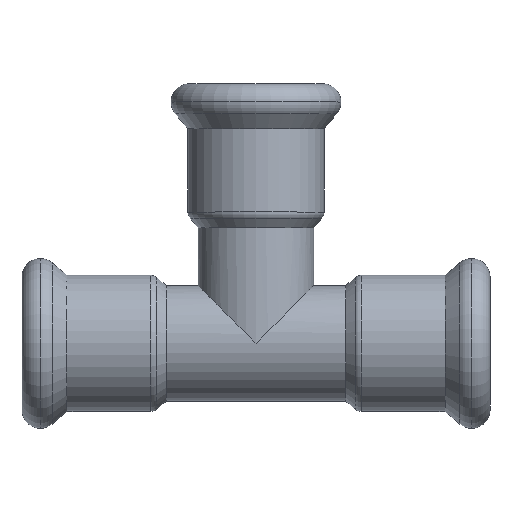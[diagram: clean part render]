
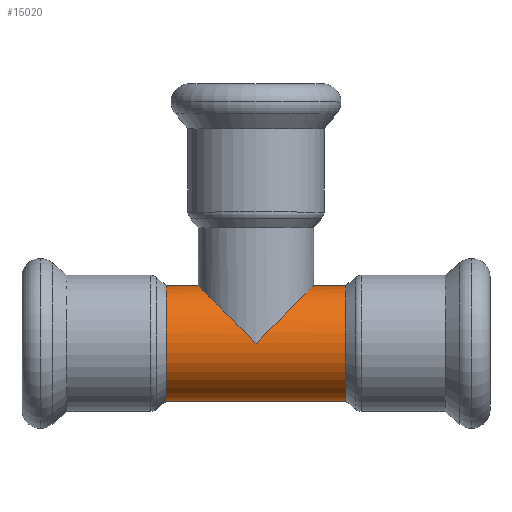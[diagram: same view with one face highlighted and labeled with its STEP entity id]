
A CAD part, top view. The second image highlights one B-rep face of the part: STEP entity #15020.
In plain terms, the highlighted cylindrical face has radius 9 mm (diameter 18 mm), a partial arc.
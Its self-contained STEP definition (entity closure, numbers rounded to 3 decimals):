
#14210=CARTESIAN_POINT('',(-193.976,33.621,
0.));
#14220=VERTEX_POINT('',#14210);
#14300=CARTESIAN_POINT('',(-211.976,33.621,0.));
#14310=VERTEX_POINT('',#14300);
#14340=CARTESIAN_POINT('',(-202.976,24.621,0.));
#14350=DIRECTION('',(0.707,0.707,0.));
#14360=DIRECTION('',(-0.707,0.707,0.));
#14370=AXIS2_PLACEMENT_3D('',#14340,#14350,#14360);
#14380=ELLIPSE('',#14370,12.728,9.);
#14430=CARTESIAN_POINT('',(-202.976,24.621,0.));
#14440=DIRECTION('',(-0.707,0.707,0.));
#14450=DIRECTION('',(0.707,0.707,0.));
#14460=AXIS2_PLACEMENT_3D('',#14430,#14440,#14450);
#14470=ELLIPSE('',#14460,12.728,9.);
#14530=CARTESIAN_POINT('',(-216.976,24.621,0.));
#14540=DIRECTION('',(-1.,0.,0.));
#14550=DIRECTION('',(0.,1.,0.));
#14560=AXIS2_PLACEMENT_3D('',#14530,#14540,#14550);
#14570=CYLINDRICAL_SURFACE('',#14560,9.);
#14580=CARTESIAN_POINT('',(-216.976,15.621,
0.));
#14590=DIRECTION('',(-1.,0.,0.));
#14600=VECTOR('',#14590,1.);
#14610=LINE('',#14580,#14600);
#14620=CARTESIAN_POINT('',(-188.976,15.621,
0.));
#14630=VERTEX_POINT('',#14620);
#14640=CARTESIAN_POINT('',(-216.976,15.621,
0.));
#14650=VERTEX_POINT('',#14640);
#14660=EDGE_CURVE('',#14630,#14650,#14610,.T.);
#14670=ORIENTED_EDGE('',*,*,#14660,.F.);
#14680=CARTESIAN_POINT('',(-216.976,24.621,0.));
#14690=DIRECTION('',(-1.,0.,0.));
#14700=DIRECTION('',(0.,-1.,0.));
#14710=AXIS2_PLACEMENT_3D('',#14680,#14690,#14700);
#14720=CIRCLE('',#14710,9.);
#14730=CARTESIAN_POINT('',(-216.976,33.621,0.));
#14740=VERTEX_POINT('',#14730);
#14750=EDGE_CURVE('',#14650,#14740,#14720,.T.);
#14760=ORIENTED_EDGE('',*,*,#14750,.F.);
#14770=CARTESIAN_POINT('',(-216.976,33.621,0.));
#14780=DIRECTION('',(-1.,0.,0.));
#14790=VECTOR('',#14780,1.);
#14800=LINE('',#14770,#14790);
#14810=EDGE_CURVE('',#14310,#14740,#14800,.T.);
#14820=ORIENTED_EDGE('',*,*,#14810,.T.);
#14830=CARTESIAN_POINT('',(-202.976,24.621,9.));
#14840=VERTEX_POINT('',#14830);
#14850=EDGE_CURVE('',#14310,#14840,#14380,.T.);
#14860=ORIENTED_EDGE('',*,*,#14850,.F.);
#14870=EDGE_CURVE('',#14840,#14220,#14470,.T.);
#14880=ORIENTED_EDGE('',*,*,#14870,.F.);
#14890=CARTESIAN_POINT('',(-188.976,33.621,0.));
#14900=VERTEX_POINT('',#14890);
#14910=EDGE_CURVE('',#14900,#14220,#14800,.T.);
#14920=ORIENTED_EDGE('',*,*,#14910,.T.);
#14930=CARTESIAN_POINT('',(-188.976,24.621,0.));
#14940=DIRECTION('',(-1.,0.,0.));
#14950=DIRECTION('',(0.,1.,0.));
#14960=AXIS2_PLACEMENT_3D('',#14930,#14940,#14950);
#14970=CIRCLE('',#14960,9.);
#14980=EDGE_CURVE('',#14630,#14900,#14970,.T.);
#14990=ORIENTED_EDGE('',*,*,#14980,.T.);
#15000=EDGE_LOOP('',(#14990,#14920,#14880,#14860,#14820,#14760,#14670));
#15010=FACE_OUTER_BOUND('',#15000,.T.);
#15020=ADVANCED_FACE('',(#15010),#14570,.T.);
